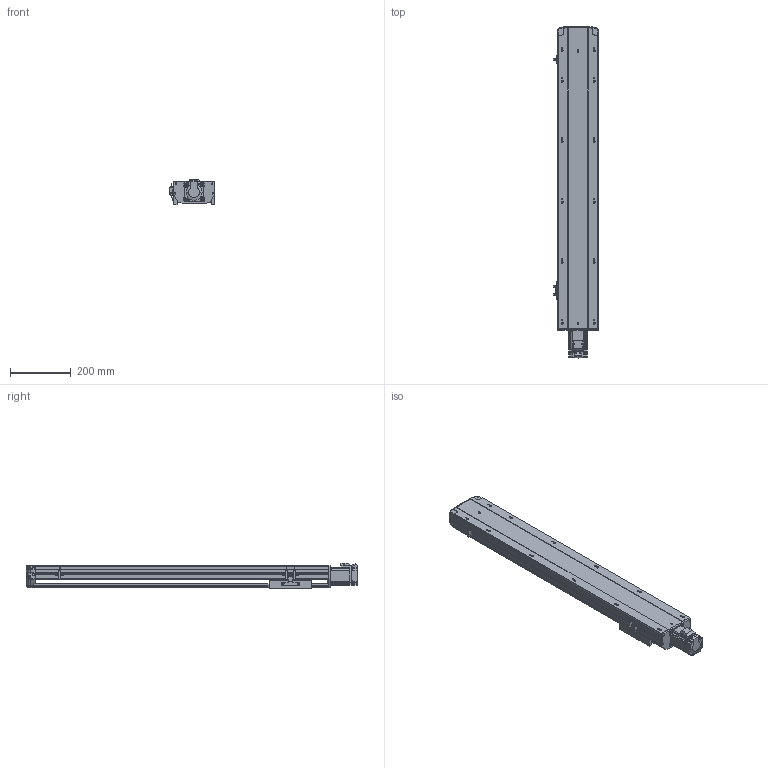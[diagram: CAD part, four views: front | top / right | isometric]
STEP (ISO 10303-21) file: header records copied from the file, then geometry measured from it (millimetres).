
FILE_DESCRIPTION (( 'STEP AP203' ), '1' );
FILE_NAME ('15.STEP', '2020-11-07T01:38:40', ( '' ), ( '' ), 'SwSTEP 2.0', 'SolidWorks 2016', '' );
FILE_SCHEMA (( 'CONFIG_CONTROL_DESIGN' ));
Length unit declared in the file: millimetre
Products named in the file (7): BTH14-BC-01; BTH14-BC-04; BTH14-BC-菁釱; BTH14-BC-P20; BTH14-BC-HZ; BTH14-BC-02; 15
Assembly tree (8 placements, depth 2):
  15
    BTH14-BC-菁釱
    BTH14-BC-01
    BTH14-BC-02
    BTH14-BC-04  x3
    BTH14-BC-HZ
    BTH14-BC-P20
Bounding box: 148.7 x 1097.02 x 84.91 mm (x, y, z)
Volume: 4348792.6 mm3; surface area: 956180 mm2
Topology: 12 solids, 12 shells, 1786 faces, 4873 edges, 3149 vertices
Faces by surface type: plane 925, cylinder 503, bspline 200, cone 114, torus 44
Entity records: 62507 total; most frequent: CARTESIAN_POINT 22898, ORIENTED_EDGE 8566, DIRECTION 7477, EDGE_CURVE 4283, VERTEX_POINT 2789, AXIS2_PLACEMENT_3D 2546, LINE 2385, VECTOR 2385
